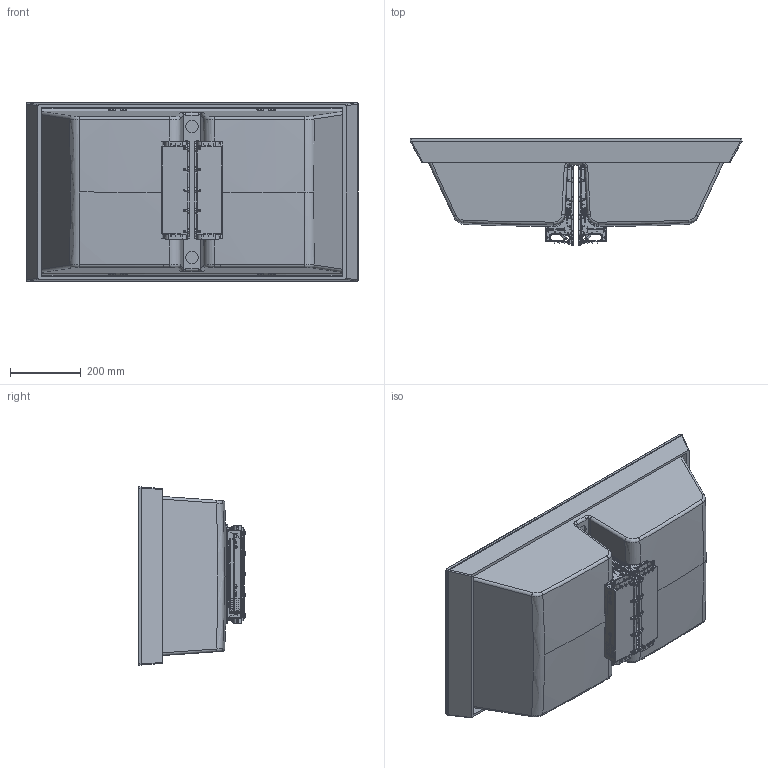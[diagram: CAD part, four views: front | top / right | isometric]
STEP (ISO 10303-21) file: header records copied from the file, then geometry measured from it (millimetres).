
FILE_DESCRIPTION (( 'STEP AP203' ), '1' );
FILE_NAME ('3d_Dogma_100.STEP', '2022-05-06T15:17:08', ( '' ), ( '' ), 'SwSTEP 2.0', 'SolidWorks 2021', '' );
FILE_SCHEMA (( 'CONFIG_CONTROL_DESIGN' ));
Length unit declared in the file: millimetre
Products named in the file (15): guarnizione; GrigliettaSup5; DOGMA_smart; assieme griglia2; bicchierino; 20180220 06266_neutro; CestelloInf3; perno pallina; Corpo_SMART; FLANGIA REV1; 20180220 06265; TP_Patent Elleci_borchie; 3d_Dogma_100; pomello; vitone 60mm
Assembly tree (17 placements, depth 3):
  3d_Dogma_100
    DOGMA_smart
    assieme griglia2  x2
      bicchierino
      guarnizione
      perno pallina
      pomello
      GrigliettaSup5
      vitone 60mm
      CestelloInf3
    Corpo_SMART  x2
    TP_Patent Elleci_borchie  x2
      20180220 06265
      20180220 06266_neutro
    FLANGIA REV1
Bounding box: 941.12 x 303.91 x 506.12 mm (x, y, z)
Volume: 10395377.5 mm3; surface area: 3116084.1 mm2
Topology: 22 solids, 22 shells, 7685 faces, 20104 edges, 12648 vertices
Faces by surface type: plane 3065, bspline 2270, cylinder 1864, cone 254, torus 178, sphere 54
Entity records: 196631 total; most frequent: CARTESIAN_POINT 106715, ORIENTED_EDGE 21328, DIRECTION 13321, EDGE_CURVE 10664, VERTEX_POINT 6756, LINE 4601, VECTOR 4601, EDGE_LOOP 4462
